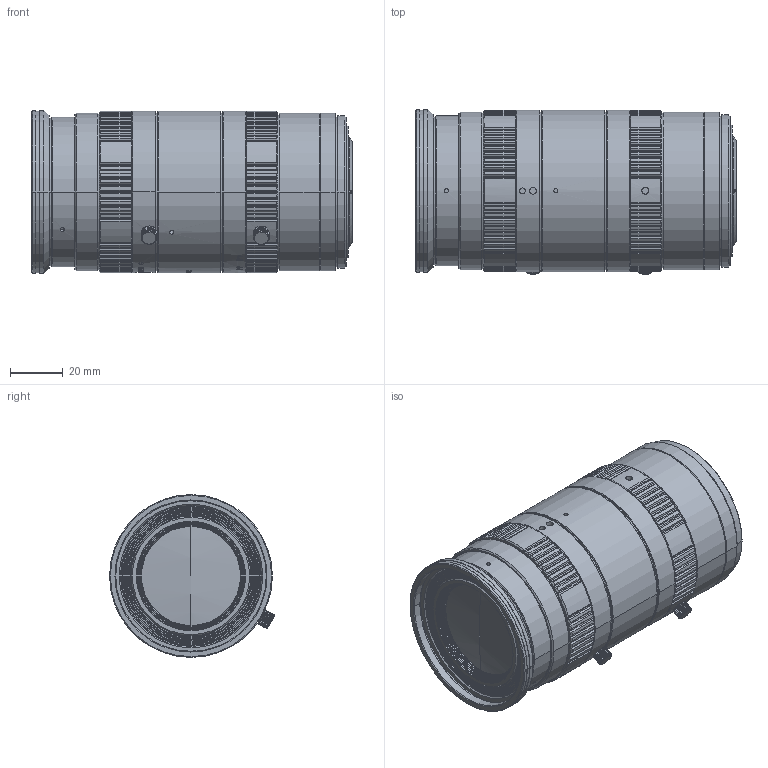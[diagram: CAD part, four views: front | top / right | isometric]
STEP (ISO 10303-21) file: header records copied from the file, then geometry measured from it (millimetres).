
FILE_DESCRIPTION((''),'2;1');
FILE_NAME('M5045-78MP_V1_0','2024-05-18T11:45:55',('admin'),(''),'CREO PARAMETRIC BY PTC INC, 2020354','CREO PARAMETRIC BY PTC INC, 2020354','');
FILE_SCHEMA(('AUTOMOTIVE_DESIGN { 1 0 10303 214 1 1 1 1 }'));
Length unit declared in the file: millimetre
Products named in the file (1): M5045-78MP_V1_0
Bounding box: 121.92 x 62.78 x 62 mm (x, y, z)
Volume: 328319.2 mm3; surface area: 38412.8 mm2
Topology: 3 solids, 4 shells, 2008 faces, 5225 edges, 3351 vertices
Faces by surface type: plane 713, cylinder 638, bspline 331, cone 276, torus 24, extrusion 22, sphere 4
Entity records: 75689 total; most frequent: CARTESIAN_POINT 28815, ORIENTED_EDGE 10442, DIRECTION 8781, EDGE_CURVE 5221, AXIS2_PLACEMENT_3D 3365, VERTEX_POINT 3351, EDGE_LOOP 2142, VECTOR 2051
